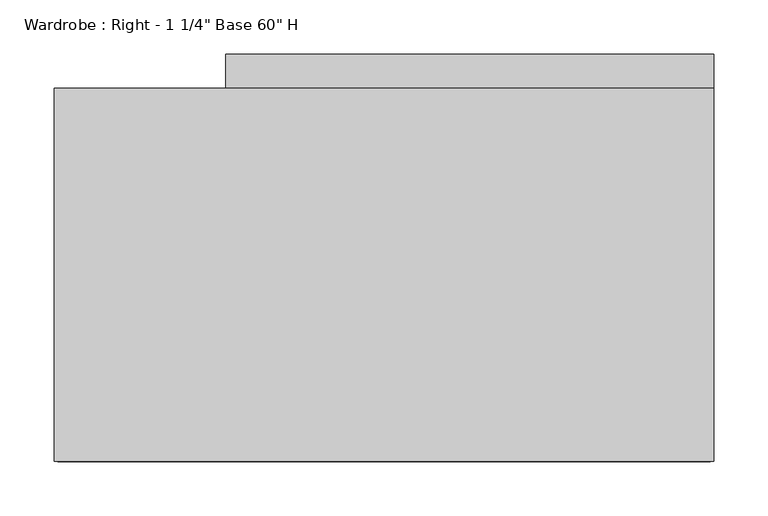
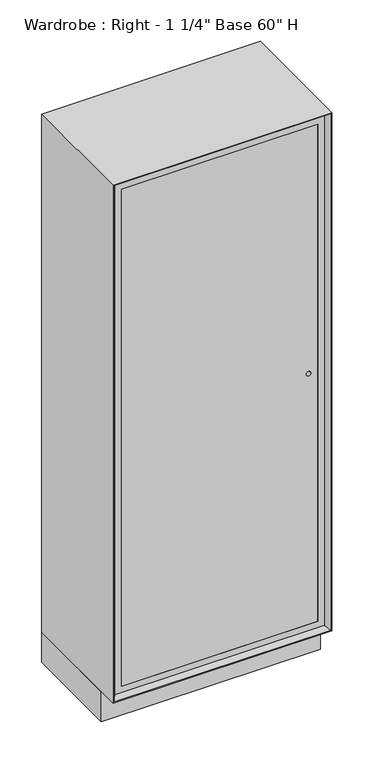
"""IFC4 building model written with IfcOpenShell, lengths in millimetres: furniture geometry."""

from ifc_helpers import new_model, si_unit, point, frame, frame_2d, origin, origin_with_axes, place, context, project, spatial, polyline, circle_curve, trimmed, segment, composite_curve, outline, extrude, faceted_brep, source, transform, mapped, element, save


def furniture_4a333a7b(model_context):
    return source(origin(), model_context, "Body", "SolidModel", [
        extrude(outline(polyline([(1579.5625, -273.05), (119.0625, -273.05), (119.0625, 273.05), (1579.5625, 273.05), (1579.5625, -273.05)]), holes=[composite_curve([segment(trimmed(circle_curve(frame_2d((855.6625, 247.65)), 6.35), [point((855.6625, 254.0))], [point((855.6625, 241.3))], True, "CARTESIAN"), True, "CONTINUOUS"), segment(trimmed(circle_curve(frame_2d((855.6625, 247.65)), 6.35), [point((855.6625, 241.3))], [point((855.6625, 254.0))], True, "CARTESIAN"), True, "CONTINUOUS")], self_intersect=False)]), frame((0.0, -363.5375, 0.0), z_axis=(0.0, 1.0, 0.0), x_axis=(0.0, 0.0, 1.0)), (0.0, 0.0, 1.0), 19.05),
        extrude(outline(polyline([(1598.6125, 292.1), (1598.6125, -292.1), (100.0125, -292.1), (100.0125, 292.1), (1598.6125, 292.1)]), holes=[polyline([(1579.5625, -273.05), (1579.5625, 273.05), (119.0625, 273.05), (119.0625, -273.05), (1579.5625, -273.05)])]), frame((0.0, -363.5375, 0.0), z_axis=(0.0, 1.0, 0.0), x_axis=(0.0, 0.0, 1.0)), (0.0, 0.0, 1.0), 331.7875),
        extrude(outline(polyline([(273.05, -31.75), (273.05, -50.8), (-273.05, -50.8), (-273.05, -31.75), (273.05, -31.75)])), frame((0.0, 0.0, 119.0625), z_axis=(0.0, 0.0, 1.0), x_axis=(1.0, 0.0, 0.0)), (0.0, 0.0, 1.0), 1460.5),
        faceted_brep([(292.1, -363.5375, 1598.6125), (292.1, -31.75, 1598.6125), (292.1, -31.75, 100.0125), (292.1, -363.5375, 100.0125), (301.625, -376.2375, 1608.1375), (301.625, -376.2375, 90.4875), (304.8, -31.75, 1611.3125), (304.8, -376.2375, 1611.3125), (304.8, -376.2375, 87.3125), (304.8, -31.75, 87.3125), (-292.1, -31.75, 100.0125), (-292.1, -363.5375, 100.0125), (-301.625, -376.2375, 90.4875), (-304.8, -376.2375, 87.3125), (-304.8, -31.75, 87.3125), (-292.1, -31.75, 1598.6125), (-292.1, -363.5375, 1598.6125), (-301.625, -376.2375, 1608.1375), (-304.8, -376.2375, 1611.3125), (-304.8, -31.75, 1611.3125)], [[[0, 1, 2, 3]], [[4, 0, 3, 5]], [[6, 7, 8, 9]], [[3, 2, 10, 11]], [[5, 3, 11, 12]], [[9, 8, 13, 14]], [[11, 10, 15, 16]], [[12, 11, 16, 17]], [[14, 13, 18, 19]], [[9, 14, 19, 6], [1, 15, 10, 2]], [[16, 15, 1, 0]], [[17, 16, 0, 4]], [[7, 18, 13, 8], [5, 12, 17, 4]], [[19, 18, 7, 6]]]),
        extrude(outline(polyline([(304.8, -31.75), (304.8, -320.675), (-304.8, -320.675), (-304.8, -31.75), (304.8, -31.75)])), origin_with_axes(), (0.0, 0.0, 1.0), 87.3125),
        extrude(outline(polyline([(304.8, 0.0), (304.8, -31.75), (-146.2, -31.75), (-146.2, 0.0), (304.8, 0.0)])), origin_with_axes(), (0.0, 0.0, 1.0), 1460.5),
    ])


if __name__ == "__main__":
    model = new_model("IFC4")
    model_context = context("Model", 3, world=origin())
    ifc_project = project(units=[si_unit("LENGTHUNIT", "METRE", prefix="MILLI")], contexts=[model_context])
    site = spatial("IfcSite", under=ifc_project)
    building = spatial("IfcBuilding", under=site)
    placement = place(None, origin())
    furniture_shape = furniture_4a333a7b(model_context)
    element("IfcFurniture", 1, ObjectType="Wardrobe : Right - 1 1/4\" Base 60\" H", at=placement, inside=building, context=model_context, shape_type="MappedRepresentation", body=[
        mapped(furniture_shape, transform((0.0, 0.0, 0.0), x_axis=(1.0, 0.0, 0.0), y_axis=(0.0, 1.0, 0.0), z_axis=(0.0, 0.0, 1.0))),
    ])
    save(model, "model.ifc")
